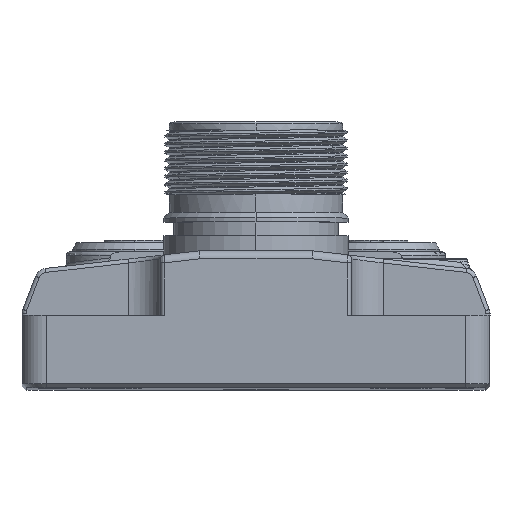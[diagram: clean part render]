
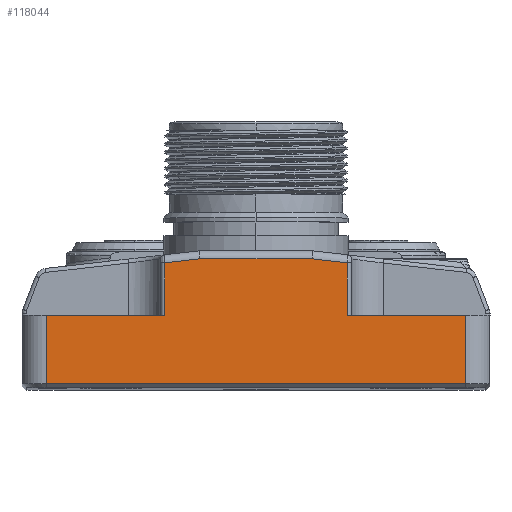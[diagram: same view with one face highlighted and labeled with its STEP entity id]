
A CAD part, top view. The second image highlights one B-rep face of the part: STEP entity #118044.
In plain terms, the highlighted planar face has unit normal (0, 0, 1).
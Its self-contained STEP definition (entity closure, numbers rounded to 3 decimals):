
#24928=DIRECTION('',(0.,1.,0.));
#24929=VECTOR('',#24928,8.5);
#24930=CARTESIAN_POINT('',(-26.,0.5,
153.));
#24931=LINE('',#24930,#24929);
#24936=DIRECTION('',(-0.994,0.113,0.));
#24937=VECTOR('',#24936,4.385);
#24938=CARTESIAN_POINT('',(11.3,15.505,153.));
#24939=LINE('',#24938,#24937);
#24940=DIRECTION('',(-0.994,-0.113,0.));
#24941=VECTOR('',#24940,4.385);
#24942=CARTESIAN_POINT('',(-6.943,16.,
153.));
#24943=LINE('',#24942,#24941);
#24944=DIRECTION('',(1.,0.,0.));
#24945=VECTOR('',#24944,13.887);
#24946=CARTESIAN_POINT('',(-6.943,16.,
153.));
#24947=LINE('',#24946,#24945);
#24956=CARTESIAN_POINT('',(11.3,15.505,153.));
#28505=DIRECTION('',(-1.,0.,0.));
#28506=VECTOR('',#28505,52.);
#28507=CARTESIAN_POINT('',(26.,0.5,153.));
#28508=LINE('',#28507,#28506);
#28526=DIRECTION('',(0.,-1.,0.));
#28527=VECTOR('',#28526,8.5);
#28528=CARTESIAN_POINT('',(26.,9.,153.));
#28529=LINE('',#28528,#28527);
#28709=DIRECTION('',(1.,0.,0.));
#28710=VECTOR('',#28709,14.7);
#28711=CARTESIAN_POINT('',(11.3,9.,153.));
#28712=LINE('',#28711,#28710);
#28733=DIRECTION('',(0.,-1.,0.));
#28734=VECTOR('',#28733,6.505);
#28735=CARTESIAN_POINT('',(11.3,15.505,153.));
#28736=LINE('',#28735,#28734);
#29207=DIRECTION('',(1.,0.,0.));
#29208=VECTOR('',#29207,14.7);
#29209=CARTESIAN_POINT('',(-26.,9.,153.));
#29210=LINE('',#29209,#29208);
#29323=DIRECTION('',(0.,1.,0.));
#29324=VECTOR('',#29323,6.505);
#29325=CARTESIAN_POINT('',(-11.3,9.,153.));
#29326=LINE('',#29325,#29324);
#61403=VERTEX_POINT('',#24956);
#62470=CARTESIAN_POINT('',(26.,9.,153.));
#62472=VERTEX_POINT('',#62470);
#65324=CARTESIAN_POINT('',(-26.,9.,153.));
#65325=CARTESIAN_POINT('',(-11.3,9.,153.));
#65326=VERTEX_POINT('',#65324);
#65327=VERTEX_POINT('',#65325);
#65760=CARTESIAN_POINT('',(-11.3,15.505,
153.));
#65761=VERTEX_POINT('',#65760);
#67615=CARTESIAN_POINT('',(11.3,9.,153.));
#67616=VERTEX_POINT('',#67615);
#68497=CARTESIAN_POINT('',(-6.943,16.,
153.));
#68498=CARTESIAN_POINT('',(6.943,16.,153.));
#68499=VERTEX_POINT('',#68497);
#68500=VERTEX_POINT('',#68498);
#71149=CARTESIAN_POINT('',(26.,0.5,153.));
#71150=VERTEX_POINT('',#71149);
#71672=CARTESIAN_POINT('',(-26.,0.5,
153.));
#71673=VERTEX_POINT('',#71672);
#118018=CARTESIAN_POINT('',(-26.,0.5,153.));
#118019=DIRECTION('',(0.,0.,1.));
#118020=DIRECTION('',(1.,0.,0.));
#118021=AXIS2_PLACEMENT_3D('',#118018,#118019,#118020);
#118022=PLANE('',#118021);
#118024=ORIENTED_EDGE('',*,*,#118023,.T.);
#118026=ORIENTED_EDGE('',*,*,#118025,.F.);
#118028=ORIENTED_EDGE('',*,*,#118027,.T.);
#118030=ORIENTED_EDGE('',*,*,#118029,.T.);
#118032=ORIENTED_EDGE('',*,*,#118031,.T.);
#118034=ORIENTED_EDGE('',*,*,#118033,.T.);
#118035=ORIENTED_EDGE('',*,*,#118008,.T.);
#118037=ORIENTED_EDGE('',*,*,#118036,.T.);
#118039=ORIENTED_EDGE('',*,*,#118038,.T.);
#118041=ORIENTED_EDGE('',*,*,#118040,.F.);
#118042=EDGE_LOOP('',(#118024,#118026,#118028,#118030,#118032,#118034,#118035,
#118037,#118039,#118041));
#118043=FACE_OUTER_BOUND('',#118042,.F.);
#118044=ADVANCED_FACE('',(#118043),#118022,.T.);
#118008=EDGE_CURVE('',#71673,#65326,#24931,.T.);
#118023=EDGE_CURVE('',#68499,#68500,#24947,.T.);
#118025=EDGE_CURVE('',#61403,#68500,#24939,.T.);
#118027=EDGE_CURVE('',#61403,#67616,#28736,.T.);
#118029=EDGE_CURVE('',#67616,#62472,#28712,.T.);
#118031=EDGE_CURVE('',#62472,#71150,#28529,.T.);
#118033=EDGE_CURVE('',#71150,#71673,#28508,.T.);
#118036=EDGE_CURVE('',#65326,#65327,#29210,.T.);
#118038=EDGE_CURVE('',#65327,#65761,#29326,.T.);
#118040=EDGE_CURVE('',#68499,#65761,#24943,.T.);
